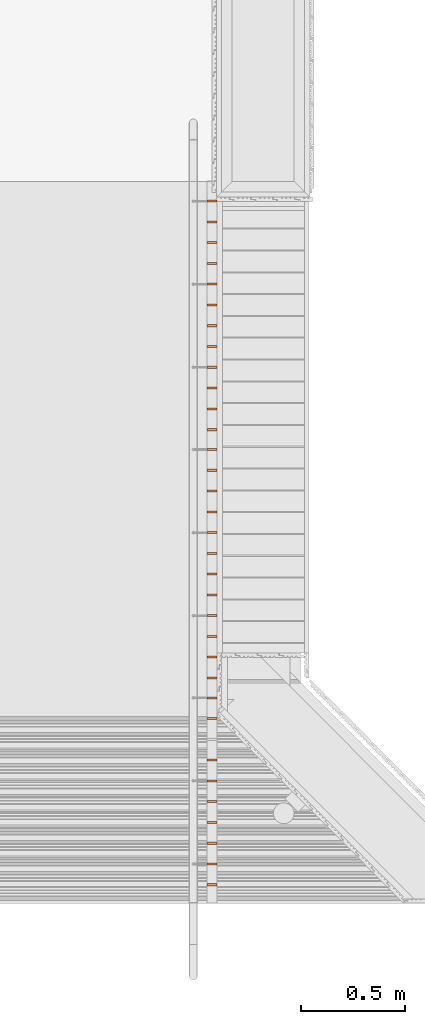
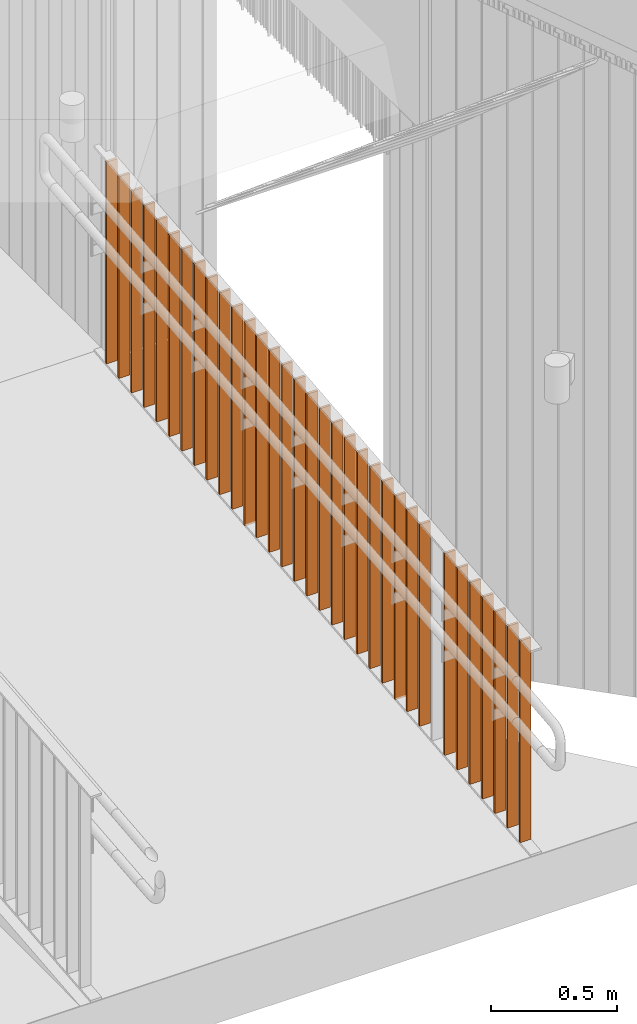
# One storey, part 362 of 418: 33 proxies, 1 element without a shape of its own.
"""IFC2X3 building model written with IfcOpenShell, lengths in millimetres."""

from ifc_helpers import new_model, entity, si_unit, converted_unit, derived_unit, money_unit, direction, frame, origin_with_axes, place, context, subcontext, project, spatial, faceted_brep, source, transform, mapped, material, type_object, element, aggregate, save


model = new_model("IFC2X3")

# Units and contexts
model_context = context("Model", 3, precision=0.01, world=origin_with_axes(), true_north=direction((0.0, 1.0)))
body_context = subcontext(model_context, "Body", "Model", "MODEL_VIEW")
ifc_project = project(units=[si_unit("LENGTHUNIT", "METRE", prefix="MILLI"), si_unit("AREAUNIT", "SQUARE_METRE"), si_unit("VOLUMEUNIT", "CUBIC_METRE"), converted_unit("PLANEANGLEUNIT", "DEGREE", entity("IfcPlaneAngleMeasure", 0.0174532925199), si_unit("PLANEANGLEUNIT", "RADIAN"), dimensions=[0, 0, 0, 0, 0, 0, 0]), si_unit("SOLIDANGLEUNIT", "STERADIAN"), money_unit("EUR"), converted_unit("TIMEUNIT", "Year", entity("IfcTimeMeasure", 31556926.0), si_unit("TIMEUNIT", "SECOND"), dimensions=[0, 0, 1, 0, 0, 0, 0]), si_unit("MASSUNIT", "GRAM", prefix="KILO"), si_unit("THERMODYNAMICTEMPERATUREUNIT", "DEGREE_CELSIUS"), si_unit("LUMINOUSINTENSITYUNIT", "LUMEN"), si_unit("ENERGYUNIT", "JOULE", prefix="MEGA"), derived_unit("THERMALCONDUCTANCEUNIT", [(si_unit("POWERUNIT", "WATT"), 1), (si_unit("LENGTHUNIT", "METRE"), -1), (si_unit("THERMODYNAMICTEMPERATUREUNIT", "KELVIN"), -1)]), derived_unit("SPECIFICHEATCAPACITYUNIT", [(si_unit("ENERGYUNIT", "JOULE"), 1), (si_unit("MASSUNIT", "GRAM", prefix="KILO"), -1), (si_unit("THERMODYNAMICTEMPERATUREUNIT", "KELVIN"), -1)]), derived_unit("MASSDENSITYUNIT", [(si_unit("MASSUNIT", "GRAM", prefix="KILO"), 1), (si_unit("VOLUMEUNIT", "CUBIC_METRE"), -1)])], contexts=[model_context])

# Site, building, storey
site_placement = place(None, origin_with_axes())
site = spatial("IfcSite", under=ifc_project, at=site_placement, Name="Paldiski mnt 245/1, Tallinn, Harjumaa", CompositionType="COMPLEX")
building_placement = place(site_placement, origin_with_axes())
building = spatial("IfcBuilding", under=site, at=building_placement, Name="RKAS Hoone üldnimetus (kasutust iseloomustav) -> IFC Project Manager -> SOLIBRI", CompositionType="ELEMENT")
storey_placement = place(building_placement, origin_with_axes())
storey = spatial("IfcBuildingStorey", under=building, at=storey_placement, Name="Esimene korrus", CompositionType="ELEMENT", Elevation=0.0)

# Proxies
building_element_proxy_type_1 = type_object("IfcBuildingElementProxyType", Name="Railing Type", PredefinedType="NOTDEFINED")
proxy_1_placement = place(storey_placement, frame((-38790.9992191, -15230.0843011, -367.539728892), z_axis=(0.0, 0.0, 1.0), x_axis=(-0.773149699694, -0.634223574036, 0.0)))
proxy_1 = element("IfcBuildingElementProxy", 1, at=proxy_1_placement, inside=storey, type_object=building_element_proxy_type_1, Name="Trepipiire")
ifc_material = material(Name="RAL7016")
building_element_proxy_type_2 = type_object("IfcBuildingElementProxyType", Name="IfcBuildingElementProxy", PredefinedType="NOTDEFINED")
shared_shape_1 = source(origin_with_axes(), body_context, "Body", "Brep", [
    faceted_brep([(25.0, 5.0, -0.500000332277), (-25.0, 5.0, -0.500000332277), (-25.0, 5.0, 979.983322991), (25.0, 5.0, 979.983322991), (25.0, -5.0, 0.500000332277), (-25.0, -5.0, 0.500000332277), (-25.0, -5.0, 980.983323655), (25.0, -5.0, 980.983323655)], [[[0, 1, 2, 3]], [[0, 4, 5, 1]], [[1, 5, 6, 2]], [[3, 2, 6, 7]], [[4, 0, 3, 7]], [[5, 4, 7, 6]]]),
])
proxy_2_placement = place(proxy_1_placement, frame((79.5799820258, 57.59363212, 347.556399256), z_axis=(0.0, 0.0, 1.0), x_axis=(-0.773149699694, 0.634223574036, 0.0)))
proxy_2 = element("IfcBuildingElementProxy", 2, at=proxy_2_placement, type_object=building_element_proxy_type_2, material=ifc_material, Name="SISEPOST - 001", context=body_context, shape_type="MappedRepresentation", body=[
    mapped(shared_shape_1, transform((0.0, 0.0, 0.0), x_axis=(-1.0, 0.0, 0.0), y_axis=(0.0, -1.0, 0.0), z_axis=(0.0, 0.0, 1.0))),
])
proxy_3_placement = place(proxy_1_placement, frame((143.002339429, 134.908602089, 337.55639261), z_axis=(0.0, 0.0, 1.0), x_axis=(-0.773149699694, 0.634223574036, 0.0)))
proxy_3 = element("IfcBuildingElementProxy", 3, at=proxy_3_placement, type_object=building_element_proxy_type_2, material=ifc_material, Name="SISEPOST - 001", context=body_context, shape_type="MappedRepresentation", body=[
    mapped(shared_shape_1, transform((0.0, 0.0, 0.0), x_axis=(-1.0, 0.0, 0.0), y_axis=(0.0, -1.0, 0.0), z_axis=(0.0, 0.0, 1.0))),
])
proxy_4_placement = place(proxy_1_placement, frame((206.424696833, 212.223572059, 327.556385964), z_axis=(0.0, 0.0, 1.0), x_axis=(-0.773149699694, 0.634223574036, 0.0)))
proxy_4 = element("IfcBuildingElementProxy", 4, at=proxy_4_placement, type_object=building_element_proxy_type_2, material=ifc_material, Name="SISEPOST - 001", context=body_context, shape_type="MappedRepresentation", body=[
    mapped(shared_shape_1, transform((0.0, 0.0, 0.0), x_axis=(-1.0, 0.0, 0.0), y_axis=(0.0, -1.0, 0.0), z_axis=(0.0, 0.0, 1.0))),
])
proxy_5_placement = place(proxy_1_placement, frame((269.847054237, 289.538542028, 317.556379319), z_axis=(0.0, 0.0, 1.0), x_axis=(-0.773149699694, 0.634223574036, 0.0)))
proxy_5 = element("IfcBuildingElementProxy", 5, at=proxy_5_placement, type_object=building_element_proxy_type_2, material=ifc_material, Name="SISEPOST - 001", context=body_context, shape_type="MappedRepresentation", body=[
    mapped(shared_shape_1, transform((0.0, 0.0, 0.0), x_axis=(-1.0, 0.0, 0.0), y_axis=(0.0, -1.0, 0.0), z_axis=(0.0, 0.0, 1.0))),
])
proxy_6_placement = place(proxy_1_placement, frame((333.26941164, 366.853511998, 307.556372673), z_axis=(0.0, 0.0, 1.0), x_axis=(-0.773149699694, 0.634223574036, 0.0)))
proxy_6 = element("IfcBuildingElementProxy", 6, at=proxy_6_placement, type_object=building_element_proxy_type_2, material=ifc_material, Name="SISEPOST - 001", context=body_context, shape_type="MappedRepresentation", body=[
    mapped(shared_shape_1, transform((0.0, 0.0, 0.0), x_axis=(-1.0, 0.0, 0.0), y_axis=(0.0, -1.0, 0.0), z_axis=(0.0, 0.0, 1.0))),
])
proxy_7_placement = place(proxy_1_placement, frame((396.691769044, 444.168481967, 297.556366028), z_axis=(0.0, 0.0, 1.0), x_axis=(-0.773149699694, 0.634223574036, 0.0)))
proxy_7 = element("IfcBuildingElementProxy", 7, at=proxy_7_placement, type_object=building_element_proxy_type_2, material=ifc_material, Name="SISEPOST - 001", context=body_context, shape_type="MappedRepresentation", body=[
    mapped(shared_shape_1, transform((0.0, 0.0, 0.0), x_axis=(-1.0, 0.0, 0.0), y_axis=(0.0, -1.0, 0.0), z_axis=(0.0, 0.0, 1.0))),
])
proxy_8_placement = place(proxy_1_placement, frame((460.114126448, 521.483451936, 287.556359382), z_axis=(0.0, 0.0, 1.0), x_axis=(-0.773149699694, 0.634223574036, 0.0)))
proxy_8 = element("IfcBuildingElementProxy", 8, at=proxy_8_placement, type_object=building_element_proxy_type_2, material=ifc_material, Name="SISEPOST - 001", context=body_context, shape_type="MappedRepresentation", body=[
    mapped(shared_shape_1, transform((0.0, 0.0, 0.0), x_axis=(-1.0, 0.0, 0.0), y_axis=(0.0, -1.0, 0.0), z_axis=(0.0, 0.0, 1.0))),
])
proxy_9_placement = place(proxy_1_placement, frame((523.536483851, 598.798421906, 277.556352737), z_axis=(0.0, 0.0, 1.0), x_axis=(-0.773149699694, 0.634223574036, 0.0)))
proxy_9 = element("IfcBuildingElementProxy", 9, at=proxy_9_placement, type_object=building_element_proxy_type_2, material=ifc_material, Name="SISEPOST - 001", context=body_context, shape_type="MappedRepresentation", body=[
    mapped(shared_shape_1, transform((0.0, 0.0, 0.0), x_axis=(-1.0, 0.0, 0.0), y_axis=(0.0, -1.0, 0.0), z_axis=(0.0, 0.0, 1.0))),
])
proxy_10_placement = place(proxy_1_placement, frame((586.958841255, 676.113391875, 267.556346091), z_axis=(0.0, 0.0, 1.0), x_axis=(-0.773149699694, 0.634223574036, 0.0)))
proxy_10 = element("IfcBuildingElementProxy", 10, at=proxy_10_placement, type_object=building_element_proxy_type_2, material=ifc_material, Name="SISEPOST - 001", context=body_context, shape_type="MappedRepresentation", body=[
    mapped(shared_shape_1, transform((0.0, 0.0, 0.0), x_axis=(-1.0, 0.0, 0.0), y_axis=(0.0, -1.0, 0.0), z_axis=(0.0, 0.0, 1.0))),
])
proxy_11_placement = place(proxy_1_placement, frame((650.381198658, 753.428361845, 257.556339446), z_axis=(0.0, 0.0, 1.0), x_axis=(-0.773149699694, 0.634223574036, 0.0)))
proxy_11 = element("IfcBuildingElementProxy", 11, at=proxy_11_placement, type_object=building_element_proxy_type_2, material=ifc_material, Name="SISEPOST - 001", context=body_context, shape_type="MappedRepresentation", body=[
    mapped(shared_shape_1, transform((0.0, 0.0, 0.0), x_axis=(-1.0, 0.0, 0.0), y_axis=(0.0, -1.0, 0.0), z_axis=(0.0, 0.0, 1.0))),
])
proxy_12_placement = place(proxy_1_placement, frame((713.803556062, 830.743331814, 247.5563328), z_axis=(0.0, 0.0, 1.0), x_axis=(-0.773149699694, 0.634223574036, 0.0)))
proxy_12 = element("IfcBuildingElementProxy", 12, at=proxy_12_placement, type_object=building_element_proxy_type_2, material=ifc_material, Name="SISEPOST - 001", context=body_context, shape_type="MappedRepresentation", body=[
    mapped(shared_shape_1, transform((0.0, 0.0, 0.0), x_axis=(-1.0, 0.0, 0.0), y_axis=(0.0, -1.0, 0.0), z_axis=(0.0, 0.0, 1.0))),
])
proxy_13_placement = place(proxy_1_placement, frame((838.111376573, 982.280672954, 227.956319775), z_axis=(0.0, 0.0, 1.0), x_axis=(-0.773149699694, 0.634223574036, 0.0)))
proxy_13 = element("IfcBuildingElementProxy", 13, at=proxy_13_placement, type_object=building_element_proxy_type_2, material=ifc_material, Name="SISEPOST - 001", context=body_context, shape_type="MappedRepresentation", body=[
    mapped(shared_shape_1, transform((0.0, 0.0, 0.0), x_axis=(-1.0, 0.0, 0.0), y_axis=(0.0, -1.0, 0.0), z_axis=(0.0, 0.0, 1.0))),
])
proxy_14_placement = place(proxy_1_placement, frame((901.533733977, 1059.59564292, 217.956313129), z_axis=(0.0, 0.0, 1.0), x_axis=(-0.773149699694, 0.634223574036, 0.0)))
proxy_14 = element("IfcBuildingElementProxy", 14, at=proxy_14_placement, type_object=building_element_proxy_type_2, material=ifc_material, Name="SISEPOST - 001", context=body_context, shape_type="MappedRepresentation", body=[
    mapped(shared_shape_1, transform((0.0, 0.0, 0.0), x_axis=(-1.0, 0.0, 0.0), y_axis=(0.0, -1.0, 0.0), z_axis=(0.0, 0.0, 1.0))),
])
proxy_15_placement = place(proxy_1_placement, frame((964.95609138, 1136.91061289, 207.956306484), z_axis=(0.0, 0.0, 1.0), x_axis=(-0.773149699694, 0.634223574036, 0.0)))
proxy_15 = element("IfcBuildingElementProxy", 15, at=proxy_15_placement, type_object=building_element_proxy_type_2, material=ifc_material, Name="SISEPOST - 001", context=body_context, shape_type="MappedRepresentation", body=[
    mapped(shared_shape_1, transform((0.0, 0.0, 0.0), x_axis=(-1.0, 0.0, 0.0), y_axis=(0.0, -1.0, 0.0), z_axis=(0.0, 0.0, 1.0))),
])
proxy_16_placement = place(proxy_1_placement, frame((1028.37844878, 1214.22558286, 197.956299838), z_axis=(0.0, 0.0, 1.0), x_axis=(-0.773149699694, 0.634223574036, 0.0)))
proxy_16 = element("IfcBuildingElementProxy", 16, at=proxy_16_placement, type_object=building_element_proxy_type_2, material=ifc_material, Name="SISEPOST - 001", context=body_context, shape_type="MappedRepresentation", body=[
    mapped(shared_shape_1, transform((0.0, 0.0, 0.0), x_axis=(-1.0, 0.0, 0.0), y_axis=(0.0, -1.0, 0.0), z_axis=(0.0, 0.0, 1.0))),
])
proxy_17_placement = place(proxy_1_placement, frame((1091.80080619, 1291.54055283, 187.956293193), z_axis=(0.0, 0.0, 1.0), x_axis=(-0.773149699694, 0.634223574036, 0.0)))
proxy_17 = element("IfcBuildingElementProxy", 17, at=proxy_17_placement, type_object=building_element_proxy_type_2, material=ifc_material, Name="SISEPOST - 001", context=body_context, shape_type="MappedRepresentation", body=[
    mapped(shared_shape_1, transform((0.0, 0.0, 0.0), x_axis=(-1.0, 0.0, 0.0), y_axis=(0.0, -1.0, 0.0), z_axis=(0.0, 0.0, 1.0))),
])
proxy_18_placement = place(proxy_1_placement, frame((1155.22316359, 1368.8555228, 177.956286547), z_axis=(0.0, 0.0, 1.0), x_axis=(-0.773149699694, 0.634223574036, 0.0)))
proxy_18 = element("IfcBuildingElementProxy", 18, at=proxy_18_placement, type_object=building_element_proxy_type_2, material=ifc_material, Name="SISEPOST - 001", context=body_context, shape_type="MappedRepresentation", body=[
    mapped(shared_shape_1, transform((0.0, 0.0, 0.0), x_axis=(-1.0, 0.0, 0.0), y_axis=(0.0, -1.0, 0.0), z_axis=(0.0, 0.0, 1.0))),
])
proxy_19_placement = place(proxy_1_placement, frame((1218.64552099, 1446.17049277, 167.956279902), z_axis=(0.0, 0.0, 1.0), x_axis=(-0.773149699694, 0.634223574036, 0.0)))
proxy_19 = element("IfcBuildingElementProxy", 19, at=proxy_19_placement, type_object=building_element_proxy_type_2, material=ifc_material, Name="SISEPOST - 001", context=body_context, shape_type="MappedRepresentation", body=[
    mapped(shared_shape_1, transform((0.0, 0.0, 0.0), x_axis=(-1.0, 0.0, 0.0), y_axis=(0.0, -1.0, 0.0), z_axis=(0.0, 0.0, 1.0))),
])
proxy_20_placement = place(proxy_1_placement, frame((1282.0678784, 1523.48546274, 157.956273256), z_axis=(0.0, 0.0, 1.0), x_axis=(-0.773149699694, 0.634223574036, 0.0)))
proxy_20 = element("IfcBuildingElementProxy", 20, at=proxy_20_placement, type_object=building_element_proxy_type_2, material=ifc_material, Name="SISEPOST - 001", context=body_context, shape_type="MappedRepresentation", body=[
    mapped(shared_shape_1, transform((0.0, 0.0, 0.0), x_axis=(-1.0, 0.0, 0.0), y_axis=(0.0, -1.0, 0.0), z_axis=(0.0, 0.0, 1.0))),
])
proxy_21_placement = place(proxy_1_placement, frame((1345.4902358, 1600.80043271, 147.956266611), z_axis=(0.0, 0.0, 1.0), x_axis=(-0.773149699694, 0.634223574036, 0.0)))
proxy_21 = element("IfcBuildingElementProxy", 21, at=proxy_21_placement, type_object=building_element_proxy_type_2, material=ifc_material, Name="SISEPOST - 001", context=body_context, shape_type="MappedRepresentation", body=[
    mapped(shared_shape_1, transform((0.0, 0.0, 0.0), x_axis=(-1.0, 0.0, 0.0), y_axis=(0.0, -1.0, 0.0), z_axis=(0.0, 0.0, 1.0))),
])
proxy_22_placement = place(proxy_1_placement, frame((1408.91259321, 1678.11540268, 137.956259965), z_axis=(0.0, 0.0, 1.0), x_axis=(-0.773149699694, 0.634223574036, 0.0)))
proxy_22 = element("IfcBuildingElementProxy", 22, at=proxy_22_placement, type_object=building_element_proxy_type_2, material=ifc_material, Name="SISEPOST - 001", context=body_context, shape_type="MappedRepresentation", body=[
    mapped(shared_shape_1, transform((0.0, 0.0, 0.0), x_axis=(-1.0, 0.0, 0.0), y_axis=(0.0, -1.0, 0.0), z_axis=(0.0, 0.0, 1.0))),
])
proxy_23_placement = place(proxy_1_placement, frame((1472.33495061, 1755.43037265, 127.95625332), z_axis=(0.0, 0.0, 1.0), x_axis=(-0.773149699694, 0.634223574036, 0.0)))
proxy_23 = element("IfcBuildingElementProxy", 23, at=proxy_23_placement, type_object=building_element_proxy_type_2, material=ifc_material, Name="SISEPOST - 001", context=body_context, shape_type="MappedRepresentation", body=[
    mapped(shared_shape_1, transform((0.0, 0.0, 0.0), x_axis=(-1.0, 0.0, 0.0), y_axis=(0.0, -1.0, 0.0), z_axis=(0.0, 0.0, 1.0))),
])
proxy_24_placement = place(proxy_1_placement, frame((1596.64277112, 1906.96771379, 108.356240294), z_axis=(0.0, 0.0, 1.0), x_axis=(-0.773149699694, 0.634223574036, 0.0)))
proxy_24 = element("IfcBuildingElementProxy", 24, at=proxy_24_placement, type_object=building_element_proxy_type_2, material=ifc_material, Name="SISEPOST - 001", context=body_context, shape_type="MappedRepresentation", body=[
    mapped(shared_shape_1, transform((0.0, 0.0, 0.0), x_axis=(-1.0, 0.0, 0.0), y_axis=(0.0, -1.0, 0.0), z_axis=(0.0, 0.0, 1.0))),
])
proxy_25_placement = place(proxy_1_placement, frame((1660.06512852, 1984.28268376, 98.3562336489), z_axis=(0.0, 0.0, 1.0), x_axis=(-0.773149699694, 0.634223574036, 0.0)))
proxy_25 = element("IfcBuildingElementProxy", 25, at=proxy_25_placement, type_object=building_element_proxy_type_2, material=ifc_material, Name="SISEPOST - 001", context=body_context, shape_type="MappedRepresentation", body=[
    mapped(shared_shape_1, transform((0.0, 0.0, 0.0), x_axis=(-1.0, 0.0, 0.0), y_axis=(0.0, -1.0, 0.0), z_axis=(0.0, 0.0, 1.0))),
])
proxy_26_placement = place(proxy_1_placement, frame((1786.90984333, 2138.9126237, 78.3562203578), z_axis=(0.0, 0.0, 1.0), x_axis=(-0.773149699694, 0.634223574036, 0.0)))
proxy_26 = element("IfcBuildingElementProxy", 26, at=proxy_26_placement, type_object=building_element_proxy_type_2, material=ifc_material, Name="SISEPOST - 001", context=body_context, shape_type="MappedRepresentation", body=[
    mapped(shared_shape_1, transform((0.0, 0.0, 0.0), x_axis=(-1.0, 0.0, 0.0), y_axis=(0.0, -1.0, 0.0), z_axis=(0.0, 0.0, 1.0))),
])
proxy_27_placement = place(proxy_1_placement, frame((1850.33220073, 2216.22759367, 68.3562137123), z_axis=(0.0, 0.0, 1.0), x_axis=(-0.773149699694, 0.634223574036, 0.0)))
proxy_27 = element("IfcBuildingElementProxy", 27, at=proxy_27_placement, type_object=building_element_proxy_type_2, material=ifc_material, Name="SISEPOST - 001", context=body_context, shape_type="MappedRepresentation", body=[
    mapped(shared_shape_1, transform((0.0, 0.0, 0.0), x_axis=(-1.0, 0.0, 0.0), y_axis=(0.0, -1.0, 0.0), z_axis=(0.0, 0.0, 1.0))),
])
proxy_28_placement = place(proxy_1_placement, frame((1913.75455814, 2293.54256363, 58.3562070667), z_axis=(0.0, 0.0, 1.0), x_axis=(-0.773149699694, 0.634223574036, 0.0)))
proxy_28 = element("IfcBuildingElementProxy", 28, at=proxy_28_placement, type_object=building_element_proxy_type_2, material=ifc_material, Name="SISEPOST - 001", context=body_context, shape_type="MappedRepresentation", body=[
    mapped(shared_shape_1, transform((0.0, 0.0, 0.0), x_axis=(-1.0, 0.0, 0.0), y_axis=(0.0, -1.0, 0.0), z_axis=(0.0, 0.0, 1.0))),
])
proxy_29_placement = place(proxy_1_placement, frame((1977.17691554, 2370.8575336, 48.3562004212), z_axis=(0.0, 0.0, 1.0), x_axis=(-0.773149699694, 0.634223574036, 0.0)))
proxy_29 = element("IfcBuildingElementProxy", 29, at=proxy_29_placement, type_object=building_element_proxy_type_2, material=ifc_material, Name="SISEPOST - 001", context=body_context, shape_type="MappedRepresentation", body=[
    mapped(shared_shape_1, transform((0.0, 0.0, 0.0), x_axis=(-1.0, 0.0, 0.0), y_axis=(0.0, -1.0, 0.0), z_axis=(0.0, 0.0, 1.0))),
])
proxy_30_placement = place(proxy_1_placement, frame((2040.59927295, 2448.17250357, 38.3561937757), z_axis=(0.0, 0.0, 1.0), x_axis=(-0.773149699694, 0.634223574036, 0.0)))
proxy_30 = element("IfcBuildingElementProxy", 30, at=proxy_30_placement, type_object=building_element_proxy_type_2, material=ifc_material, Name="SISEPOST - 001", context=body_context, shape_type="MappedRepresentation", body=[
    mapped(shared_shape_1, transform((0.0, 0.0, 0.0), x_axis=(-1.0, 0.0, 0.0), y_axis=(0.0, -1.0, 0.0), z_axis=(0.0, 0.0, 1.0))),
])
proxy_31_placement = place(proxy_1_placement, frame((2104.02163035, 2525.48747354, 28.3561871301), z_axis=(0.0, 0.0, 1.0), x_axis=(-0.773149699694, 0.634223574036, 0.0)))
proxy_31 = element("IfcBuildingElementProxy", 31, at=proxy_31_placement, type_object=building_element_proxy_type_2, material=ifc_material, Name="SISEPOST - 001", context=body_context, shape_type="MappedRepresentation", body=[
    mapped(shared_shape_1, transform((0.0, 0.0, 0.0), x_axis=(-1.0, 0.0, 0.0), y_axis=(0.0, -1.0, 0.0), z_axis=(0.0, 0.0, 1.0))),
])
proxy_32_placement = place(proxy_1_placement, frame((2167.44398775, 2602.80244351, 18.3561804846), z_axis=(0.0, 0.0, 1.0), x_axis=(-0.773149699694, 0.634223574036, 0.0)))
proxy_32 = element("IfcBuildingElementProxy", 32, at=proxy_32_placement, type_object=building_element_proxy_type_2, material=ifc_material, Name="SISEPOST - 001", context=body_context, shape_type="MappedRepresentation", body=[
    mapped(shared_shape_1, transform((0.0, 0.0, 0.0), x_axis=(-1.0, 0.0, 0.0), y_axis=(0.0, -1.0, 0.0), z_axis=(0.0, 0.0, 1.0))),
])
shared_shape_2 = source(origin_with_axes(), body_context, "Body", "Brep", [
    faceted_brep([(25.0, 5.0, -0.500000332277), (-25.0, 5.0, -0.500000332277), (-25.0, 5.0, 989.499999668), (25.0, 5.0, 989.499999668), (25.0, -5.0, 0.500000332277), (-25.0, -5.0, 0.500000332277), (-25.0, -5.0, 990.500000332), (25.0, -5.0, 990.500000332)], [[[0, 1, 2, 3]], [[0, 4, 5, 1]], [[1, 5, 6, 2]], [[3, 2, 6, 7]], [[4, 0, 3, 7]], [[5, 4, 7, 6]]]),
])
proxy_33_placement = place(proxy_1_placement, frame((777.86013704, 908.831451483, 227.939649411), z_axis=(0.0, 0.0, 1.0), x_axis=(-0.773149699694, 0.634223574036, 0.0)))
proxy_33 = element("IfcBuildingElementProxy", 33, at=proxy_33_placement, type_object=building_element_proxy_type_2, material=ifc_material, Name="SISEPOST - 001", context=body_context, shape_type="MappedRepresentation", body=[
    mapped(shared_shape_2, transform((0.0, 0.0, 0.0), x_axis=(-1.0, 0.0, 0.0), y_axis=(0.0, -1.0, 0.0), z_axis=(0.0, 0.0, 1.0))),
])
proxy_34_placement = place(proxy_1_placement, frame((1536.39153159, 1833.51849232, 108.339569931), z_axis=(0.0, 0.0, 1.0), x_axis=(-0.773149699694, 0.634223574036, 0.0)))
proxy_34 = element("IfcBuildingElementProxy", 34, at=proxy_34_placement, type_object=building_element_proxy_type_2, material=ifc_material, Name="SISEPOST - 001", context=body_context, shape_type="MappedRepresentation", body=[
    mapped(shared_shape_2, transform((0.0, 0.0, 0.0), x_axis=(-1.0, 0.0, 0.0), y_axis=(0.0, -1.0, 0.0), z_axis=(0.0, 0.0, 1.0))),
])
aggregate(proxy_1, [proxy_2, proxy_3, proxy_4, proxy_5, proxy_6, proxy_7, proxy_8, proxy_9, proxy_10, proxy_11, proxy_12, proxy_33, proxy_13, proxy_14, proxy_15, proxy_16, proxy_17, proxy_18, proxy_19, proxy_20, proxy_21, proxy_22, proxy_23, proxy_34, proxy_24, proxy_25, proxy_26, proxy_27, proxy_28, proxy_29, proxy_30, proxy_31, proxy_32])

save(model, "model.ifc")
